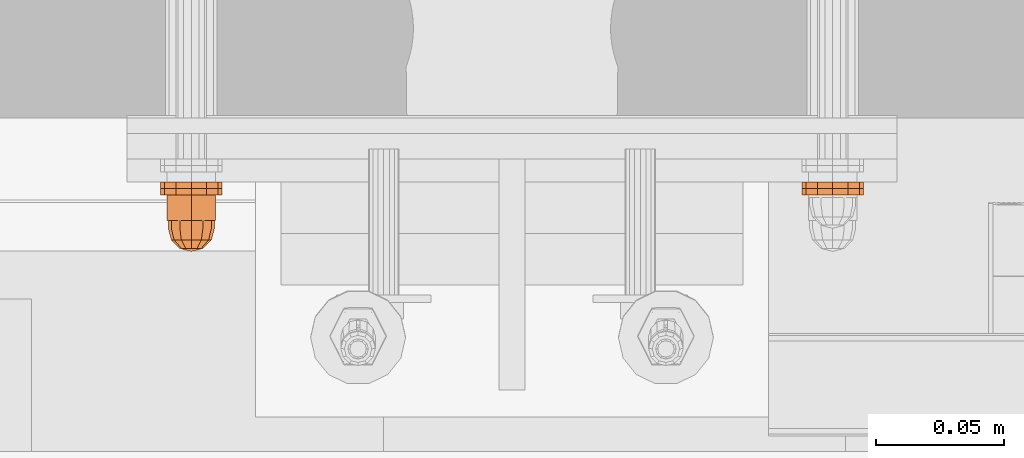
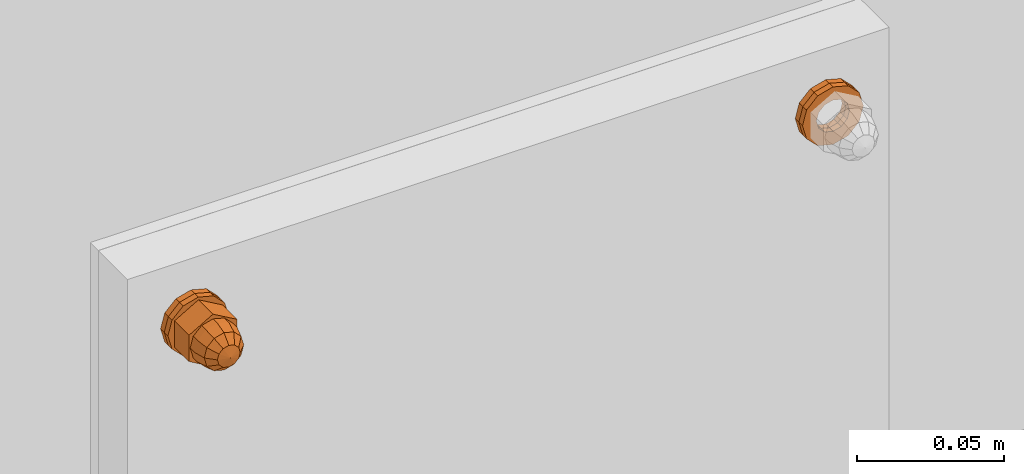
# One storey, part 156 of 162: 5 proxies.
"""IFC2X3 building model written with IfcOpenShell, lengths in millimetres."""

from ifc_helpers import new_model, entity, si_unit, converted_unit, origin_with_axes, place, context, project, spatial, faceted_brep, material, element, save


model = new_model("IFC2X3")

# Units and contexts
model_context = context("Model", 3, precision=1e-09, world=origin_with_axes())
ifc_project = project(units=[si_unit("LENGTHUNIT", "METRE", prefix="MILLI"), si_unit("AREAUNIT", "SQUARE_METRE"), si_unit("VOLUMEUNIT", "CUBIC_METRE"), converted_unit("PLANEANGLEUNIT", "DEGREE", entity("IfcPlaneAngleMeasure", 0.01745329), si_unit("PLANEANGLEUNIT", "RADIAN"), dimensions=[0, 0, 0, 0, 0, 0, 0])], contexts=[model_context])

# Site, building, storey
site_placement = place(None, origin_with_axes())
site = spatial("IfcSite", under=ifc_project, at=site_placement, Name="Hermannstra?e 1a, 60318 Frankfurt", CompositionType="ELEMENT")
building_placement = place(site_placement, origin_with_axes())
building = spatial("IfcBuilding", under=site, at=building_placement, Name="Struktur 1", CompositionType="ELEMENT")
storey_placement = place(building_placement, origin_with_axes())
storey = spatial("IfcBuildingStorey", under=building, at=storey_placement, Name="Default Storey", CompositionType="ELEMENT", Elevation=0.0)

# Proxies
ifc_material_1 = material(Name="A4")
proxy_1_placement = place(None, origin_with_axes())
element("IfcBuildingElementProxy", 1, at=proxy_1_placement, inside=storey, material=ifc_material_1, ObjectType="-", context=model_context, shape_type="Brep", body=[
    faceted_brep([(5687.916352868, 2705.608666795, 7899.0), (5687.916352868, 2708.108666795, 7899.0), (5692.308657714, 2708.108666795, 7894.607695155), (5692.308657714, 2705.608666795, 7894.607695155), (5698.308657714, 2705.608666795, 7893.0), (5704.308657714, 2705.608666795, 7894.607695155), (5708.700962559, 2705.608666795, 7899.0), (5710.308657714, 2705.608666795, 7905.0), (5708.700962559, 2705.608666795, 7911.0), (5704.308657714, 2705.608666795, 7915.392304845), (5698.308657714, 2705.608666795, 7917.0), (5692.308657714, 2705.608666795, 7915.392304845), (5687.916352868, 2705.608666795, 7911.0), (5686.308657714, 2705.608666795, 7905.0), (5701.558657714, 2705.608666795, 7899.370834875), (5698.308657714, 2705.608666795, 7898.5), (5695.058657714, 2705.608666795, 7899.370834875), (5692.679492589, 2705.608666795, 7901.75), (5691.808657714, 2705.608666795, 7905.0), (5692.679492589, 2705.608666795, 7908.25), (5695.058657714, 2705.608666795, 7910.629165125), (5698.308657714, 2705.608666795, 7911.5), (5701.558657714, 2705.608666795, 7910.629165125), (5703.937822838, 2705.608666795, 7908.25), (5704.808657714, 2705.608666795, 7905.0), (5703.937822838, 2705.608666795, 7901.75), (5686.308657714, 2708.108666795, 7905.0), (5687.916352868, 2708.108666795, 7911.0), (5692.308657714, 2708.108666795, 7915.392304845), (5698.308657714, 2708.108666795, 7917.0), (5704.308657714, 2708.108666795, 7915.392304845), (5708.700962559, 2708.108666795, 7911.0), (5710.308657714, 2708.108666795, 7905.0), (5708.700962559, 2708.108666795, 7899.0), (5704.308657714, 2708.108666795, 7894.607695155), (5698.308657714, 2708.108666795, 7893.0), (5691.808657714, 2708.108666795, 7905.0), (5692.679492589, 2708.108666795, 7901.75), (5695.058657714, 2708.108666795, 7899.370834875), (5698.308657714, 2708.108666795, 7898.5), (5701.558657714, 2708.108666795, 7899.370834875), (5703.937822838, 2708.108666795, 7901.75), (5704.808657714, 2708.108666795, 7905.0), (5703.937822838, 2708.108666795, 7908.25), (5701.558657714, 2708.108666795, 7910.629165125), (5698.308657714, 2708.108666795, 7911.5), (5695.058657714, 2708.108666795, 7910.629165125), (5692.679492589, 2708.108666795, 7908.25)], [[[0, 1, 2, 3]], [[3, 4, 5, 6, 7, 8, 9, 10, 11, 12, 13, 0], [14, 15, 16, 17, 18, 19, 20, 21, 22, 23, 24, 25]], [[1, 26, 27, 28, 29, 30, 31, 32, 33, 34, 35, 2], [36, 37, 38, 39, 40, 41, 42, 43, 44, 45, 46, 47]], [[37, 17, 16, 38]], [[1, 0, 13, 26]], [[17, 37, 36, 18]], [[38, 16, 15, 39]], [[3, 2, 35, 4]], [[26, 13, 12, 27]], [[18, 36, 47, 19]], [[39, 15, 14, 40]], [[4, 35, 34, 5]], [[27, 12, 11, 28]], [[19, 47, 46, 20]], [[40, 14, 25, 41]], [[5, 34, 33, 6]], [[24, 42, 41, 25]], [[28, 11, 10, 29]], [[20, 46, 45, 21]], [[23, 43, 42, 24]], [[6, 33, 32, 7]], [[44, 22, 21, 45]], [[43, 23, 22, 44]], [[29, 10, 9, 30]], [[7, 32, 31, 8]], [[30, 9, 8, 31]]]),
])
ifc_material_2 = material(Name="Kunststoff")
proxy_2_placement = place(None, origin_with_axes())
element("IfcBuildingElementProxy", 2, at=proxy_2_placement, inside=storey, material=ifc_material_2, ObjectType="-", context=model_context, shape_type="Brep", body=[
    faceted_brep([(5708.700962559, 2708.108666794, 7899.0), (5708.700962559, 2710.608666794, 7899.0), (5710.308657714, 2710.608666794, 7905.0), (5710.308657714, 2708.108666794, 7905.0), (5704.308657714, 2710.608666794, 7894.607695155), (5698.308657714, 2710.608666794, 7893.0), (5692.308657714, 2710.608666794, 7894.607695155), (5687.916352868, 2710.608666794, 7899.0), (5686.308657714, 2710.608666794, 7905.0), (5687.916352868, 2710.608666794, 7911.0), (5692.308657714, 2710.608666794, 7915.392304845), (5698.308657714, 2710.608666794, 7917.0), (5704.308657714, 2710.608666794, 7915.392304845), (5708.700962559, 2710.608666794, 7911.0), (5701.558657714, 2710.608666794, 7899.370834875), (5703.937822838, 2710.608666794, 7901.75), (5704.808657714, 2710.608666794, 7905.0), (5703.937822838, 2710.608666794, 7908.25), (5701.558657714, 2710.608666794, 7910.629165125), (5698.308657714, 2710.608666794, 7911.5), (5695.058657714, 2710.608666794, 7910.629165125), (5692.679492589, 2710.608666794, 7908.25), (5691.808657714, 2710.608666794, 7905.0), (5692.679492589, 2710.608666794, 7901.75), (5695.058657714, 2710.608666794, 7899.370834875), (5698.308657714, 2710.608666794, 7898.5), (5704.808657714, 2708.108666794, 7905.0), (5703.937822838, 2708.108666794, 7901.75), (5704.308657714, 2708.108666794, 7894.607695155), (5708.700962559, 2708.108666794, 7911.0), (5704.308657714, 2708.108666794, 7915.392304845), (5698.308657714, 2708.108666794, 7917.0), (5692.308657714, 2708.108666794, 7915.392304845), (5687.916352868, 2708.108666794, 7911.0), (5686.308657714, 2708.108666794, 7905.0), (5687.916352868, 2708.108666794, 7899.0), (5692.308657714, 2708.108666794, 7894.607695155), (5698.308657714, 2708.108666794, 7893.0), (5701.558657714, 2708.108666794, 7899.370834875), (5698.308657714, 2708.108666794, 7898.5), (5695.058657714, 2708.108666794, 7899.370834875), (5692.679492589, 2708.108666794, 7901.75), (5691.808657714, 2708.108666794, 7905.0), (5692.679492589, 2708.108666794, 7908.25), (5695.058657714, 2708.108666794, 7910.629165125), (5698.308657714, 2708.108666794, 7911.5), (5701.558657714, 2708.108666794, 7910.629165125), (5703.937822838, 2708.108666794, 7908.25)], [[[0, 1, 2, 3]], [[1, 4, 5, 6, 7, 8, 9, 10, 11, 12, 13, 2], [14, 15, 16, 17, 18, 19, 20, 21, 22, 23, 24, 25]], [[26, 16, 15, 27]], [[28, 0, 3, 29, 30, 31, 32, 33, 34, 35, 36, 37], [26, 27, 38, 39, 40, 41, 42, 43, 44, 45, 46, 47]], [[1, 0, 28, 4]], [[16, 26, 47, 17]], [[3, 2, 13, 29]], [[27, 15, 14, 38]], [[4, 28, 37, 5]], [[17, 47, 46, 18]], [[29, 13, 12, 30]], [[38, 14, 25, 39]], [[18, 46, 45, 19]], [[5, 37, 36, 6]], [[39, 25, 24, 40]], [[30, 12, 11, 31]], [[19, 45, 44, 20]], [[6, 36, 35, 7]], [[40, 24, 23, 41]], [[31, 11, 10, 32]], [[20, 44, 43, 21]], [[7, 35, 34, 8]], [[41, 23, 22, 42]], [[32, 10, 9, 33]], [[21, 43, 42, 22]], [[8, 34, 33, 9]]]),
])
proxy_3_placement = place(None, origin_with_axes())
element("IfcBuildingElementProxy", 3, at=proxy_3_placement, inside=storey, material=ifc_material_1, ObjectType="-", context=model_context, shape_type="Brep", body=[
    faceted_brep([(5454.308657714, 2705.608666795, 7905.0), (5454.308657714, 2695.608666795, 7905.0), (5453.504810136, 2695.608666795, 7908.0), (5453.504810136, 2705.608666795, 7908.0), (5451.308657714, 2695.608666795, 7910.196152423), (5451.308657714, 2705.608666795, 7910.196152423), (5453.504810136, 2705.608666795, 7902.0), (5453.504810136, 2695.608666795, 7902.0), (5457.788526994, 2705.608666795, 7899.526794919), (5448.308657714, 2705.608666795, 7894.053589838), (5438.828788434, 2705.608666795, 7899.526794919), (5438.828788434, 2705.608666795, 7910.473205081), (5448.308657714, 2705.608666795, 7915.946410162), (5457.788526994, 2705.608666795, 7910.473205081), (5451.308657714, 2705.608666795, 7899.803847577), (5448.308657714, 2705.608666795, 7911.0), (5445.308657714, 2705.608666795, 7910.196152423), (5443.112505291, 2705.608666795, 7908.0), (5442.308657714, 2705.608666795, 7905.0), (5443.112505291, 2705.608666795, 7902.0), (5445.308657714, 2705.608666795, 7899.803847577), (5448.308657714, 2705.608666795, 7899.0), (5448.308657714, 2695.608666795, 7894.053589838), (5457.788526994, 2695.608666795, 7899.526794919), (5457.788526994, 2695.608666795, 7910.473205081), (5448.308657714, 2695.608666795, 7915.946410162), (5438.828788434, 2695.608666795, 7910.473205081), (5438.828788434, 2695.608666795, 7899.526794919), (5451.308657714, 2695.608666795, 7899.803847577), (5448.308657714, 2695.608666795, 7899.0), (5445.308657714, 2695.608666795, 7899.803847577), (5443.112505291, 2695.608666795, 7902.0), (5442.308657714, 2695.608666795, 7905.0), (5443.112505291, 2695.608666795, 7908.0), (5445.308657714, 2695.608666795, 7910.196152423), (5448.308657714, 2695.608666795, 7911.0)], [[[0, 1, 2, 3]], [[3, 2, 4, 5]], [[1, 0, 6, 7]], [[8, 9, 10, 11, 12, 13], [14, 6, 0, 3, 5, 15, 16, 17, 18, 19, 20, 21]], [[22, 23, 24, 25, 26, 27], [1, 7, 28, 29, 30, 31, 32, 33, 34, 35, 4, 2]], [[7, 6, 14, 28]], [[24, 23, 8, 13]], [[5, 4, 35, 15]], [[13, 12, 25, 24]], [[28, 14, 21, 29]], [[23, 22, 9, 8]], [[15, 35, 34, 16]], [[12, 11, 26, 25]], [[29, 21, 20, 30]], [[22, 27, 10, 9]], [[16, 34, 33, 17]], [[27, 26, 11, 10]], [[30, 20, 19, 31]], [[17, 33, 32, 18]], [[31, 19, 18, 32]]]),
    faceted_brep([(5448.308657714, 2695.608666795, 7896.0), (5448.308657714, 2692.608666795, 7896.0), (5443.808657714, 2692.608666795, 7897.205771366), (5443.808657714, 2695.608666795, 7897.205771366), (5452.808657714, 2695.608666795, 7897.205771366), (5452.808657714, 2692.608666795, 7897.205771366), (5456.102886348, 2692.608666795, 7909.5), (5452.808657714, 2692.608666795, 7912.794228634), (5448.308657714, 2692.608666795, 7914.0), (5443.808657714, 2692.608666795, 7912.794228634), (5440.51442908, 2692.608666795, 7909.5), (5439.308657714, 2692.608666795, 7905.0), (5440.51442908, 2692.608666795, 7900.5), (5456.102886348, 2692.608666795, 7900.5), (5457.308657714, 2692.608666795, 7905.0), (5440.51442908, 2695.608666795, 7909.5), (5443.808657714, 2695.608666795, 7912.794228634), (5448.308657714, 2695.608666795, 7914.0), (5452.808657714, 2695.608666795, 7912.794228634), (5456.102886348, 2695.608666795, 7909.5), (5457.308657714, 2695.608666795, 7905.0), (5456.102886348, 2695.608666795, 7900.5), (5440.51442908, 2695.608666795, 7900.5), (5439.308657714, 2695.608666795, 7905.0)], [[[0, 1, 2, 3]], [[1, 0, 4, 5]], [[6, 7, 8, 9, 10, 11, 12, 2, 1, 5, 13, 14]], [[15, 16, 17, 18, 19, 20, 21, 4, 0, 3, 22, 23]], [[3, 2, 12, 22]], [[5, 4, 21, 13]], [[22, 12, 11, 23]], [[13, 21, 20, 14]], [[7, 18, 17, 8]], [[19, 6, 14, 20]], [[18, 7, 6, 19]], [[23, 11, 10, 15]], [[8, 17, 16, 9]], [[15, 10, 9, 16]]]),
    faceted_brep([(5456.102886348, 2692.608666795, 7900.5), (5455.058657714, 2688.108666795, 7901.102885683), (5452.205772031, 2688.108666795, 7898.25), (5452.808657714, 2692.608666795, 7897.205771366), (5440.51442908, 2692.608666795, 7909.5), (5443.808657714, 2692.608666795, 7912.794228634), (5448.308657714, 2692.608666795, 7914.0), (5452.808657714, 2692.608666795, 7912.794228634), (5456.102886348, 2692.608666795, 7909.5), (5457.308657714, 2692.608666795, 7905.0), (5448.308657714, 2692.608666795, 7896.0), (5443.808657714, 2692.608666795, 7897.205771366), (5440.51442908, 2692.608666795, 7900.5), (5439.308657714, 2692.608666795, 7905.0), (5448.308657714, 2688.108666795, 7897.205771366), (5456.102886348, 2688.108666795, 7905.0), (5452.808657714, 2684.81443816, 7905.0), (5452.205772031, 2684.81443816, 7902.75), (5444.411543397, 2688.108666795, 7898.25), (5450.558657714, 2684.81443816, 7901.102885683), (5455.058657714, 2688.108666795, 7908.897114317), (5452.205772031, 2684.81443816, 7907.25), (5448.308657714, 2684.81443816, 7900.5), (5448.308657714, 2683.608666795, 7905.0), (5452.205772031, 2688.108666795, 7911.75), (5450.558657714, 2684.81443816, 7908.897114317), (5448.308657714, 2688.108666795, 7912.794228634), (5441.558657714, 2688.108666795, 7901.102885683), (5446.058657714, 2684.81443816, 7901.102885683), (5448.308657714, 2684.81443816, 7909.5), (5444.411543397, 2688.108666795, 7911.75), (5446.058657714, 2684.81443816, 7908.897114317), (5440.51442908, 2688.108666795, 7905.0), (5444.411543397, 2684.81443816, 7902.75), (5441.558657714, 2688.108666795, 7908.897114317), (5444.411543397, 2684.81443816, 7907.25), (5443.808657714, 2684.81443816, 7905.0)], [[[0, 1, 2, 3]], [[4, 5, 6, 7, 8, 9, 0, 3, 10, 11, 12, 13]], [[3, 2, 14, 10]], [[15, 16, 17, 1]], [[1, 0, 9, 15]], [[10, 14, 18, 11]], [[1, 17, 19, 2]], [[16, 15, 20, 21]], [[2, 19, 22, 14]], [[23, 17, 16]], [[24, 25, 21, 20]], [[23, 16, 21]], [[24, 7, 6, 26]], [[20, 8, 7, 24]], [[15, 9, 8, 20]], [[11, 18, 27, 12]], [[14, 22, 28, 18]], [[23, 19, 17]], [[26, 29, 25, 24]], [[23, 21, 25]], [[23, 22, 19]], [[26, 6, 5, 30]], [[29, 26, 30, 31]], [[23, 25, 29]], [[12, 27, 32, 13]], [[18, 28, 33, 27]], [[23, 28, 22]], [[23, 29, 31]], [[23, 33, 28]], [[30, 5, 4, 34]], [[31, 30, 34, 35]], [[23, 31, 35]], [[13, 32, 34, 4]], [[27, 33, 36, 32]], [[23, 36, 33]], [[23, 35, 36]], [[35, 34, 32, 36]]]),
])
proxy_4_placement = place(None, origin_with_axes())
element("IfcBuildingElementProxy", 4, at=proxy_4_placement, inside=storey, material=ifc_material_1, ObjectType="-", context=model_context, shape_type="Brep", body=[
    faceted_brep([(5437.916352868, 2705.608666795, 7899.0), (5437.916352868, 2708.108666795, 7899.0), (5442.308657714, 2708.108666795, 7894.607695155), (5442.308657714, 2705.608666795, 7894.607695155), (5448.308657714, 2705.608666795, 7893.0), (5454.308657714, 2705.608666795, 7894.607695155), (5458.700962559, 2705.608666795, 7899.0), (5460.308657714, 2705.608666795, 7905.0), (5458.700962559, 2705.608666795, 7911.0), (5454.308657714, 2705.608666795, 7915.392304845), (5448.308657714, 2705.608666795, 7917.0), (5442.308657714, 2705.608666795, 7915.392304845), (5437.916352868, 2705.608666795, 7911.0), (5436.308657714, 2705.608666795, 7905.0), (5451.558657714, 2705.608666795, 7899.370834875), (5448.308657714, 2705.608666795, 7898.5), (5445.058657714, 2705.608666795, 7899.370834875), (5442.679492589, 2705.608666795, 7901.75), (5441.808657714, 2705.608666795, 7905.0), (5442.679492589, 2705.608666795, 7908.25), (5445.058657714, 2705.608666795, 7910.629165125), (5448.308657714, 2705.608666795, 7911.5), (5451.558657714, 2705.608666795, 7910.629165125), (5453.937822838, 2705.608666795, 7908.25), (5454.808657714, 2705.608666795, 7905.0), (5453.937822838, 2705.608666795, 7901.75), (5436.308657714, 2708.108666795, 7905.0), (5437.916352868, 2708.108666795, 7911.0), (5442.308657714, 2708.108666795, 7915.392304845), (5448.308657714, 2708.108666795, 7917.0), (5454.308657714, 2708.108666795, 7915.392304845), (5458.700962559, 2708.108666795, 7911.0), (5460.308657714, 2708.108666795, 7905.0), (5458.700962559, 2708.108666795, 7899.0), (5454.308657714, 2708.108666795, 7894.607695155), (5448.308657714, 2708.108666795, 7893.0), (5441.808657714, 2708.108666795, 7905.0), (5442.679492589, 2708.108666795, 7901.75), (5445.058657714, 2708.108666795, 7899.370834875), (5448.308657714, 2708.108666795, 7898.5), (5451.558657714, 2708.108666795, 7899.370834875), (5453.937822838, 2708.108666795, 7901.75), (5454.808657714, 2708.108666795, 7905.0), (5453.937822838, 2708.108666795, 7908.25), (5451.558657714, 2708.108666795, 7910.629165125), (5448.308657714, 2708.108666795, 7911.5), (5445.058657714, 2708.108666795, 7910.629165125), (5442.679492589, 2708.108666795, 7908.25)], [[[0, 1, 2, 3]], [[3, 4, 5, 6, 7, 8, 9, 10, 11, 12, 13, 0], [14, 15, 16, 17, 18, 19, 20, 21, 22, 23, 24, 25]], [[1, 26, 27, 28, 29, 30, 31, 32, 33, 34, 35, 2], [36, 37, 38, 39, 40, 41, 42, 43, 44, 45, 46, 47]], [[37, 17, 16, 38]], [[1, 0, 13, 26]], [[17, 37, 36, 18]], [[38, 16, 15, 39]], [[3, 2, 35, 4]], [[26, 13, 12, 27]], [[18, 36, 47, 19]], [[39, 15, 14, 40]], [[4, 35, 34, 5]], [[27, 12, 11, 28]], [[19, 47, 46, 20]], [[40, 14, 25, 41]], [[5, 34, 33, 6]], [[24, 42, 41, 25]], [[28, 11, 10, 29]], [[20, 46, 45, 21]], [[23, 43, 42, 24]], [[6, 33, 32, 7]], [[44, 22, 21, 45]], [[43, 23, 22, 44]], [[29, 10, 9, 30]], [[7, 32, 31, 8]], [[30, 9, 8, 31]]]),
])
proxy_5_placement = place(None, origin_with_axes())
element("IfcBuildingElementProxy", 5, at=proxy_5_placement, inside=storey, material=ifc_material_2, ObjectType="-", context=model_context, shape_type="Brep", body=[
    faceted_brep([(5458.700962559, 2708.108666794, 7899.0), (5458.700962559, 2710.608666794, 7899.0), (5460.308657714, 2710.608666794, 7905.0), (5460.308657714, 2708.108666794, 7905.0), (5454.308657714, 2710.608666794, 7894.607695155), (5448.308657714, 2710.608666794, 7893.0), (5442.308657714, 2710.608666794, 7894.607695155), (5437.916352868, 2710.608666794, 7899.0), (5436.308657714, 2710.608666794, 7905.0), (5437.916352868, 2710.608666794, 7911.0), (5442.308657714, 2710.608666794, 7915.392304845), (5448.308657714, 2710.608666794, 7917.0), (5454.308657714, 2710.608666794, 7915.392304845), (5458.700962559, 2710.608666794, 7911.0), (5451.558657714, 2710.608666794, 7899.370834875), (5453.937822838, 2710.608666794, 7901.75), (5454.808657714, 2710.608666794, 7905.0), (5453.937822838, 2710.608666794, 7908.25), (5451.558657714, 2710.608666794, 7910.629165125), (5448.308657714, 2710.608666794, 7911.5), (5445.058657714, 2710.608666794, 7910.629165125), (5442.679492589, 2710.608666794, 7908.25), (5441.808657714, 2710.608666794, 7905.0), (5442.679492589, 2710.608666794, 7901.75), (5445.058657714, 2710.608666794, 7899.370834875), (5448.308657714, 2710.608666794, 7898.5), (5454.808657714, 2708.108666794, 7905.0), (5453.937822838, 2708.108666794, 7901.75), (5454.308657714, 2708.108666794, 7894.607695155), (5458.700962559, 2708.108666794, 7911.0), (5454.308657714, 2708.108666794, 7915.392304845), (5448.308657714, 2708.108666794, 7917.0), (5442.308657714, 2708.108666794, 7915.392304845), (5437.916352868, 2708.108666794, 7911.0), (5436.308657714, 2708.108666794, 7905.0), (5437.916352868, 2708.108666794, 7899.0), (5442.308657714, 2708.108666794, 7894.607695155), (5448.308657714, 2708.108666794, 7893.0), (5451.558657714, 2708.108666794, 7899.370834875), (5448.308657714, 2708.108666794, 7898.5), (5445.058657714, 2708.108666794, 7899.370834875), (5442.679492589, 2708.108666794, 7901.75), (5441.808657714, 2708.108666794, 7905.0), (5442.679492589, 2708.108666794, 7908.25), (5445.058657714, 2708.108666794, 7910.629165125), (5448.308657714, 2708.108666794, 7911.5), (5451.558657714, 2708.108666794, 7910.629165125), (5453.937822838, 2708.108666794, 7908.25)], [[[0, 1, 2, 3]], [[1, 4, 5, 6, 7, 8, 9, 10, 11, 12, 13, 2], [14, 15, 16, 17, 18, 19, 20, 21, 22, 23, 24, 25]], [[26, 16, 15, 27]], [[28, 0, 3, 29, 30, 31, 32, 33, 34, 35, 36, 37], [26, 27, 38, 39, 40, 41, 42, 43, 44, 45, 46, 47]], [[1, 0, 28, 4]], [[16, 26, 47, 17]], [[3, 2, 13, 29]], [[27, 15, 14, 38]], [[4, 28, 37, 5]], [[17, 47, 46, 18]], [[29, 13, 12, 30]], [[38, 14, 25, 39]], [[18, 46, 45, 19]], [[5, 37, 36, 6]], [[39, 25, 24, 40]], [[30, 12, 11, 31]], [[19, 45, 44, 20]], [[6, 36, 35, 7]], [[40, 24, 23, 41]], [[31, 11, 10, 32]], [[20, 44, 43, 21]], [[7, 35, 34, 8]], [[41, 23, 22, 42]], [[32, 10, 9, 33]], [[21, 43, 42, 22]], [[8, 34, 33, 9]]]),
])

save(model, "model.ifc")
